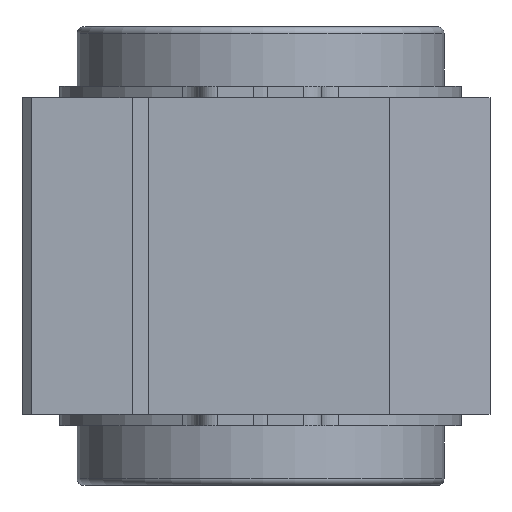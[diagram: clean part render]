
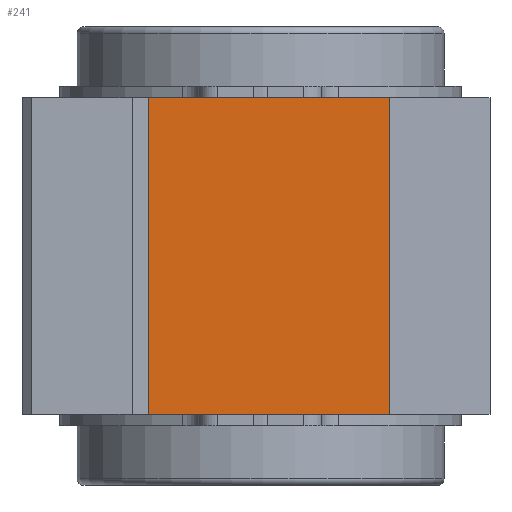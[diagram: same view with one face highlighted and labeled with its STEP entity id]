
A CAD part, left-side view. The second image highlights one B-rep face of the part: STEP entity #241.
In plain terms, the highlighted planar face has unit normal (-1, 0, 0).
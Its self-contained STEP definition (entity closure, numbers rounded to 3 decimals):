
#241=ADVANCED_FACE('',(#346),#347,.F.);
#346=FACE_OUTER_BOUND('',#525,.T.);
#347=PLANE('',#526);
#525=EDGE_LOOP('',(#835,#836,#837,#838));
#526=AXIS2_PLACEMENT_3D('',#839,#840,#841);
#835=ORIENTED_EDGE('',*,*,#1219,.T.);
#836=ORIENTED_EDGE('',*,*,#1243,.F.);
#837=ORIENTED_EDGE('',*,*,#1188,.F.);
#838=ORIENTED_EDGE('',*,*,#1244,.T.);
#839=CARTESIAN_POINT('',(-57.5,24.5,34.5));
#840=DIRECTION('',(1.0,0.0,0.0));
#841=DIRECTION('',(0.0,1.0,0.0));
#1188=EDGE_CURVE('',#1355,#1357,#1358,.T.);
#1219=EDGE_CURVE('',#1418,#1416,#1419,.T.);
#1243=EDGE_CURVE('',#1357,#1416,#1451,.T.);
#1244=EDGE_CURVE('',#1355,#1418,#1452,.T.);
#1355=VERTEX_POINT('',#1636);
#1357=VERTEX_POINT('',#1639);
#1358=LINE('',#1640,#1641);
#1416=VERTEX_POINT('',#1727);
#1418=VERTEX_POINT('',#1730);
#1419=LINE('',#1731,#1732);
#1451=LINE('',#1782,#1783);
#1452=LINE('',#1784,#1785);
#1636=CARTESIAN_POINT('',(-57.5,24.5,34.5));
#1639=CARTESIAN_POINT('',(-57.5,-28.0,34.5));
#1640=CARTESIAN_POINT('',(-57.5,24.5,34.5));
#1641=VECTOR('',#1990,1.0);
#1727=CARTESIAN_POINT('',(-57.5,-28.0,-34.5));
#1730=CARTESIAN_POINT('',(-57.5,24.5,-34.5));
#1731=CARTESIAN_POINT('',(-57.5,24.5,-34.5));
#1732=VECTOR('',#2023,1.0);
#1782=CARTESIAN_POINT('',(-57.5,-28.0,34.5));
#1783=VECTOR('',#2057,1.0);
#1784=CARTESIAN_POINT('',(-57.5,24.5,34.5));
#1785=VECTOR('',#2058,1.0);
#1990=DIRECTION('',(0.0,-1.0,0.0));
#2023=DIRECTION('',(0.0,-1.0,0.0));
#2057=DIRECTION('',(0.0,0.0,-1.0));
#2058=DIRECTION('',(0.0,0.0,-1.0));
